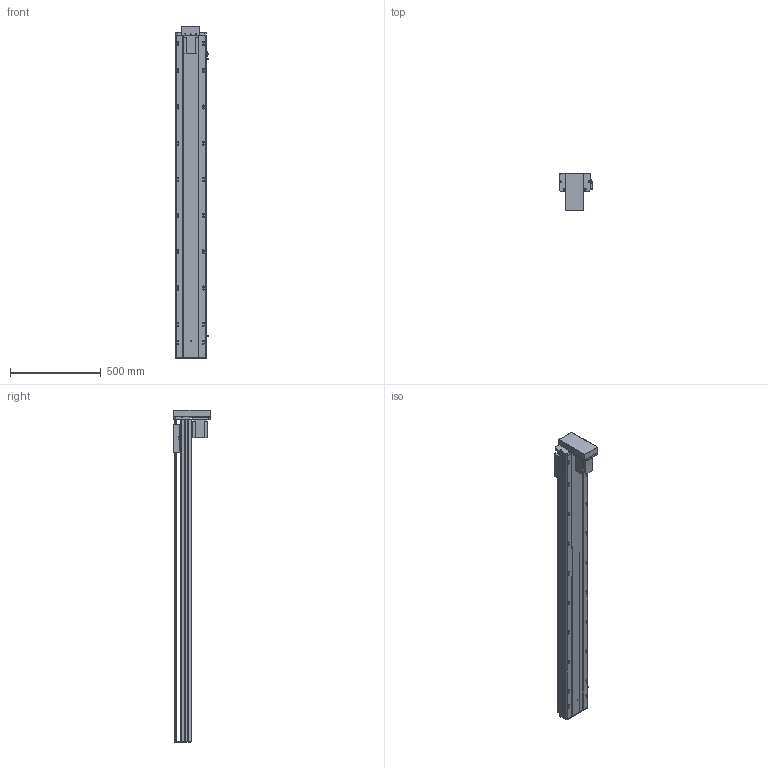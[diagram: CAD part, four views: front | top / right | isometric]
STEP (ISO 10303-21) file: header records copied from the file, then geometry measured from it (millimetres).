
FILE_DESCRIPTION (( 'STEP AP203' ), '1' );
FILE_NAME ('Y170-D10-S1550-BM-P750W.STEP', '2020-01-22T03:34:25', ( '微软用户' ), ( '微软中国' ), 'SwSTEP 2.0', 'SolidWorks 2017', '' );
FILE_SCHEMA (( 'CONFIG_CONTROL_DESIGN' ));
Length unit declared in the file: millimetre
Products named in the file (12): 170-BM耜蚾蟀諉啣; Y170-BM--P750W楊擘啣; -BM俋袗; Y170耜裔--準---; YD-Y100-135-新外置传感挡片(通用）; 170--掛极-BR; Y100-135俋离換覜ん; 侂狟750W; Y170-D10-S1550-BM-P750W; EGH20賑輸_蕼偞; Y雄赽釱-耜蚾; Y170-陔遴奻裔-BR
Assembly tree (14 placements, depth 2):
  Y170-D10-S1550-BM-P750W
    Y170耜裔--準---
    170--掛极-BR
    侂狟750W
    EGH20賑輸_蕼偞  x2
    Y雄赽釱-耜蚾
    Y170-陔遴奻裔-BR
    170-BM耜蚾蟀諉啣
    Y170-BM--P750W楊擘啣
    -BM俋袗
    YD-Y100-135-新外置传感挡片(通用）
    Y100-135俋离換覜ん  x3
Bounding box: 183.5 x 203.5 x 1833.5 mm (x, y, z)
Volume: 8101367.4 mm3; surface area: 2854609.8 mm2
Topology: 14 solids, 14 shells, 954 faces, 2748 edges, 1814 vertices
Faces by surface type: cylinder 502, plane 436, cone 16
Entity records: 30906 total; most frequent: CARTESIAN_POINT 5679, DIRECTION 5064, ORIENTED_EDGE 4992, EDGE_CURVE 2496, AXIS2_PLACEMENT_3D 1811, VERTEX_POINT 1658, VECTOR 1442, LINE 1442
